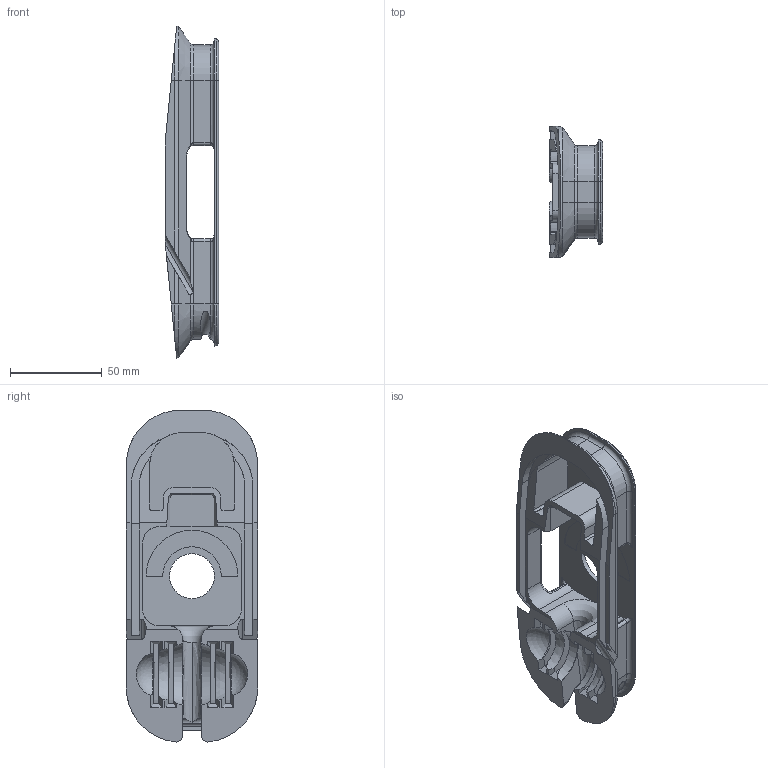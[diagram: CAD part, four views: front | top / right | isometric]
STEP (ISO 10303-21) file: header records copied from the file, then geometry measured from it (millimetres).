
FILE_DESCRIPTION (( 'STEP AP214' ), '1' );
FILE_NAME ('Steam Deck Carrying Case Insert_No Fillets.STEP', '2022-05-18T20:31:58', ( '' ), ( '' ), 'SwSTEP 2.0', 'SolidWorks 2021', '' );
FILE_SCHEMA (( 'AUTOMOTIVE_DESIGN' ));
Length unit declared in the file: millimetre
Products named in the file (1): Steam Deck Carrying Case Insert_No Fillets
Bounding box: 29 x 71.5 x 181.08 mm (x, y, z)
Volume: 97876.4 mm3; surface area: 49820.1 mm2
Topology: 1 solids, 1 shells, 282 faces, 744 edges, 461 vertices
Faces by surface type: plane 147, cylinder 77, cone 20, bspline 19, torus 15, sphere 4
Entity records: 9742 total; most frequent: CARTESIAN_POINT 3065, ORIENTED_EDGE 1488, DIRECTION 1294, EDGE_CURVE 744, VERTEX_POINT 461, VECTOR 440, LINE 440, AXIS2_PLACEMENT_3D 427
